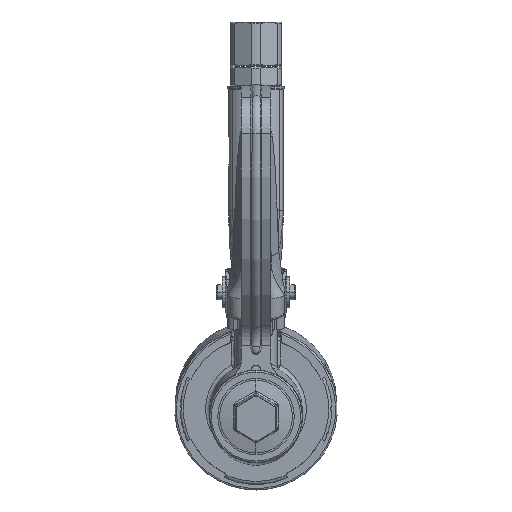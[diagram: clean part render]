
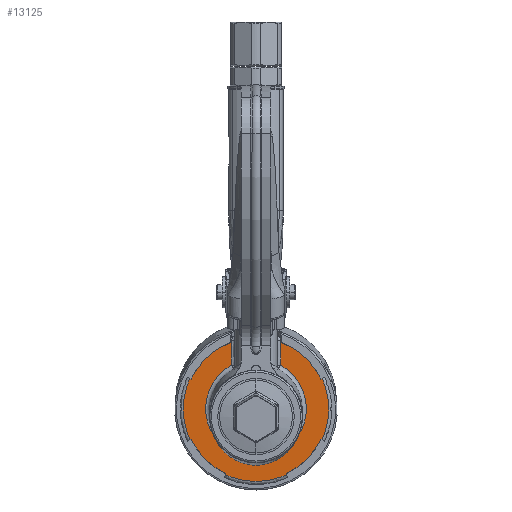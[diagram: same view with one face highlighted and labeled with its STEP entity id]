
A CAD part, front view. The second image highlights one B-rep face of the part: STEP entity #13125.
In plain terms, the highlighted planar face has unit normal (0, -0.996, -0.087).
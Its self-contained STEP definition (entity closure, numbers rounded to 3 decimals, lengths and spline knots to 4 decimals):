
#2072=CARTESIAN_POINT('',(-0.5934,0.2404,
-6.7824));
#2073=CARTESIAN_POINT('',(-0.5948,0.2347,
-6.7165));
#2074=CARTESIAN_POINT('',(-0.5974,0.2231,
-6.5848));
#2075=CARTESIAN_POINT('',(-0.6007,0.2058,
-6.3872));
#2076=CARTESIAN_POINT('',(-0.6026,0.1943,
-6.2555));
#2077=CARTESIAN_POINT('',(-0.6035,0.1886,
-6.1897));
#2079=CARTESIAN_POINT('',(0.1772,0.4464,
-9.1373));
#2080=CARTESIAN_POINT('',(0.1478,0.4468,
-9.1418));
#2081=CARTESIAN_POINT('',(0.0889,0.4474,
-9.1486));
#2082=CARTESIAN_POINT('',(0.,0.4477,
-9.152));
#2083=CARTESIAN_POINT('',(-0.089,0.4474,
-9.1486));
#2084=CARTESIAN_POINT('',(-0.1478,0.4468,
-9.1418));
#2085=CARTESIAN_POINT('',(-0.1772,0.4464,
-9.1373));
#2087=CARTESIAN_POINT('',(0.6035,0.1886,
-6.1897));
#2088=CARTESIAN_POINT('',(0.6026,0.1943,
-6.2555));
#2089=CARTESIAN_POINT('',(0.6007,0.2058,
-6.3872));
#2090=CARTESIAN_POINT('',(0.5974,0.2231,
-6.5848));
#2091=CARTESIAN_POINT('',(0.5948,0.2347,
-6.7165));
#2092=CARTESIAN_POINT('',(0.5934,0.2404,
-6.7824));
#2214=CARTESIAN_POINT('',(-0.6035,0.1886,
-6.1897));
#2224=CARTESIAN_POINT('',(0.,0.3334,-7.8448));
#2225=DIRECTION('',(0.,-0.996,-0.087));
#2226=DIRECTION('',(-0.341,-0.082,0.936));
#2227=AXIS2_PLACEMENT_3D('',#2224,#2225,#2226);
#3295=CARTESIAN_POINT('',(0.,0.3334,-7.8448));
#3296=DIRECTION('',(0.,0.996,0.087));
#3297=DIRECTION('',(0.486,-0.076,0.871));
#3298=AXIS2_PLACEMENT_3D('',#3295,#3296,#3297);
#3307=CARTESIAN_POINT('',(0.1772,0.4386,
-9.0478));
#3357=CARTESIAN_POINT('',(-0.1772,0.4386,
-9.0478));
#3359=CARTESIAN_POINT('',(0.,0.3334,-7.8448));
#3360=DIRECTION('',(0.,0.996,0.087));
#3361=DIRECTION('',(-0.145,0.086,-0.986));
#3362=AXIS2_PLACEMENT_3D('',#3359,#3360,#3361);
#3656=DIRECTION('',(0.,0.087,-0.996));
#3657=VECTOR('',#3656,0.0898);
#3658=CARTESIAN_POINT('',(0.1772,0.4386,
-9.0478));
#3659=LINE('',#3658,#3657);
#3818=DIRECTION('',(0.,-0.087,0.996));
#3819=VECTOR('',#3818,0.0898);
#3820=CARTESIAN_POINT('',(-0.1772,0.4464,
-9.1373));
#3821=LINE('',#3820,#3819);
#9829=VERTEX_POINT('',#3307);
#9866=VERTEX_POINT('',#3357);
#9976=VERTEX_POINT('',#2079);
#9977=VERTEX_POINT('',#2085);
#9996=VERTEX_POINT('',#2214);
#9999=VERTEX_POINT('',#2072);
#10004=CARTESIAN_POINT('',(0.5934,0.2404,
-6.7824));
#10005=VERTEX_POINT('',#10004);
#10007=VERTEX_POINT('',#2087);
#13102=CARTESIAN_POINT('',(0.,0.3334,-7.8448));
#13103=DIRECTION('',(0.,-0.996,-0.087));
#13104=DIRECTION('',(-1.,0.,0.));
#13105=AXIS2_PLACEMENT_3D('',#13102,#13103,#13104);
#13106=PLANE('',#13105);
#13108=ORIENTED_EDGE('',*,*,#13107,.F.);
#13110=ORIENTED_EDGE('',*,*,#13109,.F.);
#13112=ORIENTED_EDGE('',*,*,#13111,.F.);
#13114=ORIENTED_EDGE('',*,*,#13113,.F.);
#13116=ORIENTED_EDGE('',*,*,#13115,.F.);
#13118=ORIENTED_EDGE('',*,*,#13117,.F.);
#13120=ORIENTED_EDGE('',*,*,#13119,.F.);
#13122=ORIENTED_EDGE('',*,*,#13121,.F.);
#13123=EDGE_LOOP('',(#13108,#13110,#13112,#13114,#13116,#13118,#13120,#13122));
#13124=FACE_OUTER_BOUND('',#13123,.F.);
#13125=ADVANCED_FACE('',(#13124),#13106,.T.);
#2078=B_SPLINE_CURVE_WITH_KNOTS('',3,(#2072,#2073,#2074,#2075,#2076,#2077),
.UNSPECIFIED.,.F.,.F.,(4,1,1,4),(0.,0.3333,0.6667,1.),
.UNSPECIFIED.);
#2086=B_SPLINE_CURVE_WITH_KNOTS('',3,(#2079,#2080,#2081,#2082,#2083,#2084,
#2085),.UNSPECIFIED.,.F.,.F.,(4,1,1,1,4),(0.,0.25,0.5,0.75,1.),
.UNSPECIFIED.);
#2093=B_SPLINE_CURVE_WITH_KNOTS('',3,(#2087,#2088,#2089,#2090,#2091,#2092),
.UNSPECIFIED.,.F.,.F.,(4,1,1,4),(0.,0.3333,0.6667,1.),
.UNSPECIFIED.);
#2228=CIRCLE('',#2227,1.7677);
#3299=CIRCLE('',#3298,1.2205);
#3363=CIRCLE('',#3362,1.2205);
#13107=EDGE_CURVE('',#9999,#9996,#2078,.T.);
#13109=EDGE_CURVE('',#9866,#9999,#3363,.T.);
#13111=EDGE_CURVE('',#9977,#9866,#3821,.T.);
#13113=EDGE_CURVE('',#9976,#9977,#2086,.T.);
#13115=EDGE_CURVE('',#9829,#9976,#3659,.T.);
#13117=EDGE_CURVE('',#10005,#9829,#3299,.T.);
#13119=EDGE_CURVE('',#10007,#10005,#2093,.T.);
#13121=EDGE_CURVE('',#9996,#10007,#2228,.T.);
